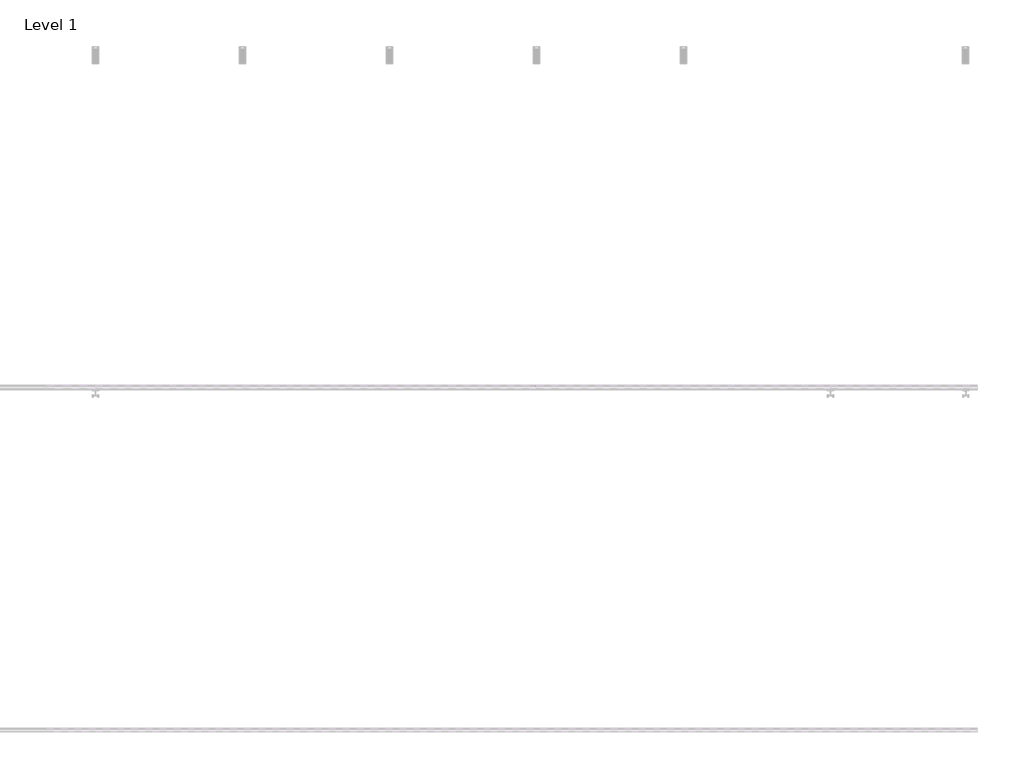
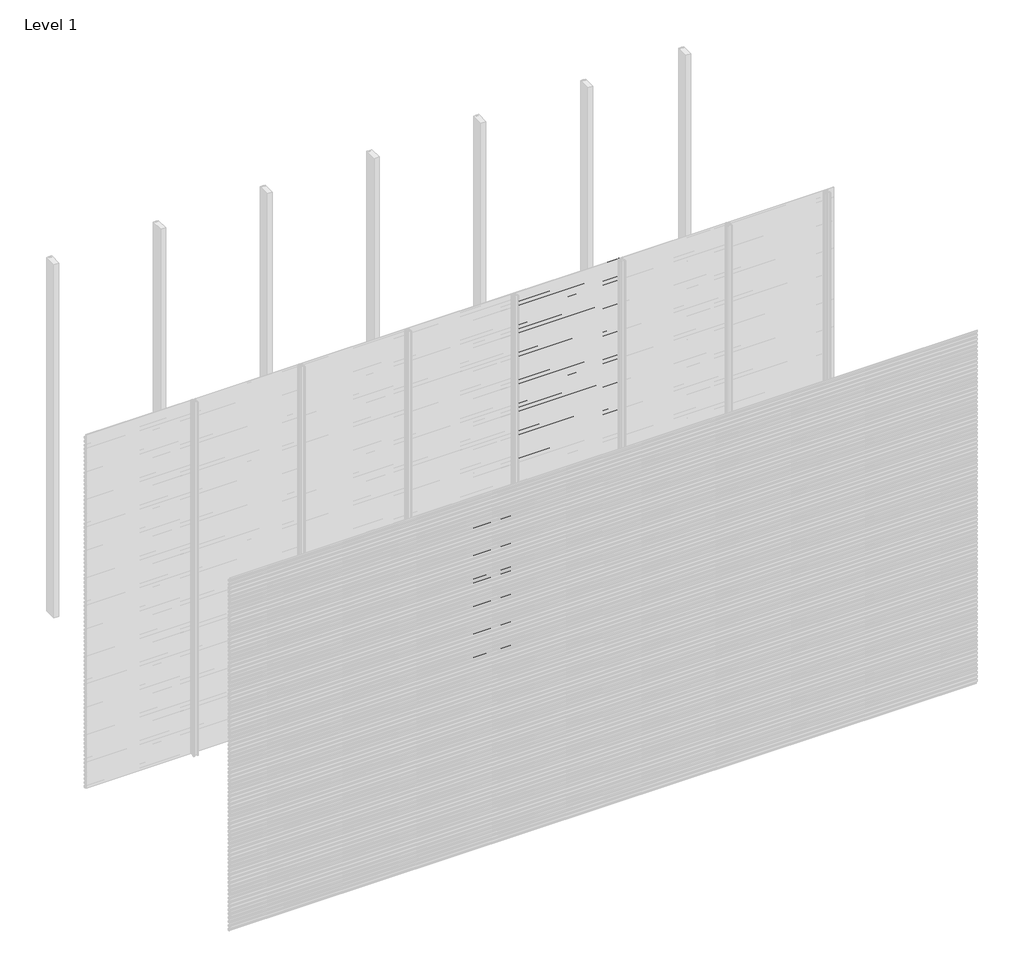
# One storey, part 28 of 96: 77 proxies.
"""IFC4 building model written with IfcOpenShell, lengths in millimetres."""

from ifc_helpers import new_model, si_unit, frame, origin, place, context, project, spatial, polyline, outline, extrude, element, save

model = new_model("IFC4")

# Units and contexts
model_context = context("Model", 3, world=origin())
ifc_project = project(units=[si_unit("LENGTHUNIT", "METRE", prefix="MILLI")], contexts=[model_context])

# Site, building, storey
site = spatial("IfcSite", under=ifc_project)
building = spatial("IfcBuilding", under=site)
storey = spatial("IfcBuildingStorey", under=building, Name="Level 1", Elevation=0.0)

# Proxies
placement = place(None, origin())
element("IfcBuildingElementProxy", 1, Name="Wall Sweeps", at=placement, inside=storey, context=model_context, shape_type="SweptSolid", body=[
    extrude(outline(polyline([(-41977.6, 1106.9655033), (-41977.6, 1092.6779188), (-41982.4114965, 1089.9), (-41982.4114965, 1091.1701706), (-41978.85, 1093.2264016), (-41978.85, 1106.2437382), (-41998.0, 1117.3000799), (-41998.0, 1132.2), (-41996.75, 1132.2), (-41996.75, 1118.0217609), (-41977.6, 1106.9655033)])), frame((2571.4285714, 0.0, 0.0), z_axis=(1.0, 0.0, 0.0), x_axis=(0.0, 1.0, 0.0)), (0.0, 0.0, 1.0), 857.1428571),
])
element("IfcBuildingElementProxy", 2, Name="Wall Sweeps", at=placement, inside=storey, context=model_context, shape_type="SweptSolid", body=[
    extrude(outline(polyline([(-41977.6, 1073.6655033), (-41977.6, 1059.3779188), (-41982.4114965, 1056.6), (-41982.4114965, 1057.8701706), (-41978.85, 1059.9264016), (-41978.85, 1072.9437382), (-41998.0, 1084.0000799), (-41998.0, 1098.9), (-41996.75, 1098.9), (-41996.75, 1084.7217609), (-41977.6, 1073.6655033)])), frame((2571.4285714, 0.0, 0.0), z_axis=(1.0, 0.0, 0.0), x_axis=(0.0, 1.0, 0.0)), (0.0, 0.0, 1.0), 857.1428571),
])
element("IfcBuildingElementProxy", 3, Name="Wall Sweeps", at=placement, inside=storey, context=model_context, shape_type="SweptSolid", body=[
    extrude(outline(polyline([(-41977.6, 1040.3655033), (-41977.6, 1026.0779188), (-41982.4114965, 1023.3), (-41982.4114965, 1024.5701706), (-41978.85, 1026.6264016), (-41978.85, 1039.6437382), (-41998.0, 1050.7000799), (-41998.0, 1065.6), (-41996.75, 1065.6), (-41996.75, 1051.4217609), (-41977.6, 1040.3655033)])), frame((2571.4285714, 0.0, 0.0), z_axis=(1.0, 0.0, 0.0), x_axis=(0.0, 1.0, 0.0)), (0.0, 0.0, 1.0), 857.1428571),
])
element("IfcBuildingElementProxy", 4, Name="Wall Sweeps", at=placement, inside=storey, context=model_context, shape_type="SweptSolid", body=[
    extrude(outline(polyline([(-41977.6, 1007.0655033), (-41977.6, 992.7779188), (-41982.4114965, 990.0), (-41982.4114965, 991.2701706), (-41978.85, 993.3264016), (-41978.85, 1006.3437382), (-41998.0, 1017.4000799), (-41998.0, 1032.3), (-41996.75, 1032.3), (-41996.75, 1018.1217609), (-41977.6, 1007.0655033)])), frame((2571.4285714, 0.0, 0.0), z_axis=(1.0, 0.0, 0.0), x_axis=(0.0, 1.0, 0.0)), (0.0, 0.0, 1.0), 857.1428571),
])
element("IfcBuildingElementProxy", 5, Name="Wall Sweeps", at=placement, inside=storey, context=model_context, shape_type="SweptSolid", body=[
    extrude(outline(polyline([(-41977.6, 973.7655033), (-41977.6, 959.4779188), (-41982.4114965, 956.7), (-41982.4114965, 957.9701706), (-41978.85, 960.0264016), (-41978.85, 973.0437382), (-41998.0, 984.1000799), (-41998.0, 999.0), (-41996.75, 999.0), (-41996.75, 984.8217609), (-41977.6, 973.7655033)])), frame((2571.4285714, 0.0, 0.0), z_axis=(1.0, 0.0, 0.0), x_axis=(0.0, 1.0, 0.0)), (0.0, 0.0, 1.0), 857.1428571),
])
element("IfcBuildingElementProxy", 6, Name="Wall Sweeps", at=placement, inside=storey, context=model_context, shape_type="SweptSolid", body=[
    extrude(outline(polyline([(-41977.6, 940.4655033), (-41977.6, 926.1779188), (-41982.4114965, 923.4), (-41982.4114965, 924.6701706), (-41978.85, 926.7264016), (-41978.85, 939.7437382), (-41998.0, 950.8000799), (-41998.0, 965.7), (-41996.75, 965.7), (-41996.75, 951.5217609), (-41977.6, 940.4655033)])), frame((2571.4285714, 0.0, 0.0), z_axis=(1.0, 0.0, 0.0), x_axis=(0.0, 1.0, 0.0)), (0.0, 0.0, 1.0), 857.1428571),
])
element("IfcBuildingElementProxy", 7, Name="Wall Sweeps", at=placement, inside=storey, context=model_context, shape_type="SweptSolid", body=[
    extrude(outline(polyline([(-41977.6, 907.1655033), (-41977.6, 892.8779188), (-41982.4114965, 890.1), (-41982.4114965, 891.3701706), (-41978.85, 893.4264016), (-41978.85, 906.4437382), (-41998.0, 917.5000799), (-41998.0, 932.4), (-41996.75, 932.4), (-41996.75, 918.2217609), (-41977.6, 907.1655033)])), frame((2571.4285714, 0.0, 0.0), z_axis=(1.0, 0.0, 0.0), x_axis=(0.0, 1.0, 0.0)), (0.0, 0.0, 1.0), 857.1428571),
])
element("IfcBuildingElementProxy", 8, Name="Wall Sweeps", at=placement, inside=storey, context=model_context, shape_type="SweptSolid", body=[
    extrude(outline(polyline([(-41977.6, 873.8655033), (-41977.6, 859.5779188), (-41982.4114965, 856.8), (-41982.4114965, 858.0701706), (-41978.85, 860.1264016), (-41978.85, 873.1437382), (-41998.0, 884.2000799), (-41998.0, 899.1), (-41996.75, 899.1), (-41996.75, 884.9217609), (-41977.6, 873.8655033)])), frame((2571.4285714, 0.0, 0.0), z_axis=(1.0, 0.0, 0.0), x_axis=(0.0, 1.0, 0.0)), (0.0, 0.0, 1.0), 857.1428571),
])
element("IfcBuildingElementProxy", 9, Name="Wall Sweeps", at=placement, inside=storey, context=model_context, shape_type="SweptSolid", body=[
    extrude(outline(polyline([(-41977.6, 840.5655033), (-41977.6, 826.2779188), (-41982.4114965, 823.5), (-41982.4114965, 824.7701706), (-41978.85, 826.8264016), (-41978.85, 839.8437382), (-41998.0, 850.9000799), (-41998.0, 865.8), (-41996.75, 865.8), (-41996.75, 851.6217609), (-41977.6, 840.5655033)])), frame((2571.4285714, 0.0, 0.0), z_axis=(1.0, 0.0, 0.0), x_axis=(0.0, 1.0, 0.0)), (0.0, 0.0, 1.0), 857.1428571),
])
element("IfcBuildingElementProxy", 10, Name="Wall Sweeps", at=placement, inside=storey, context=model_context, shape_type="SweptSolid", body=[
    extrude(outline(polyline([(-41977.6, 807.2655033), (-41977.6, 792.9779188), (-41982.4114965, 790.2), (-41982.4114965, 791.4701706), (-41978.85, 793.5264016), (-41978.85, 806.5437382), (-41998.0, 817.6000799), (-41998.0, 832.5), (-41996.75, 832.5), (-41996.75, 818.3217609), (-41977.6, 807.2655033)])), frame((2571.4285714, 0.0, 0.0), z_axis=(1.0, 0.0, 0.0), x_axis=(0.0, 1.0, 0.0)), (0.0, 0.0, 1.0), 857.1428571),
])
element("IfcBuildingElementProxy", 11, Name="Wall Sweeps", at=placement, inside=storey, context=model_context, shape_type="SweptSolid", body=[
    extrude(outline(polyline([(-41977.6, 773.9655033), (-41977.6, 759.6779188), (-41982.4114965, 756.9), (-41982.4114965, 758.1701706), (-41978.85, 760.2264016), (-41978.85, 773.2437382), (-41998.0, 784.3000799), (-41998.0, 799.2), (-41996.75, 799.2), (-41996.75, 785.0217609), (-41977.6, 773.9655033)])), frame((2571.4285714, 0.0, 0.0), z_axis=(1.0, 0.0, 0.0), x_axis=(0.0, 1.0, 0.0)), (0.0, 0.0, 1.0), 857.1428571),
])
element("IfcBuildingElementProxy", 12, Name="Wall Sweeps", at=placement, inside=storey, context=model_context, shape_type="SweptSolid", body=[
    extrude(outline(polyline([(-41977.6, 740.6655033), (-41977.6, 726.3779188), (-41982.4114965, 723.6), (-41982.4114965, 724.8701706), (-41978.85, 726.9264016), (-41978.85, 739.9437382), (-41998.0, 751.0000799), (-41998.0, 765.9), (-41996.75, 765.9), (-41996.75, 751.7217609), (-41977.6, 740.6655033)])), frame((2571.4285714, 0.0, 0.0), z_axis=(1.0, 0.0, 0.0), x_axis=(0.0, 1.0, 0.0)), (0.0, 0.0, 1.0), 857.1428571),
])
element("IfcBuildingElementProxy", 13, Name="Wall Sweeps", at=placement, inside=storey, context=model_context, shape_type="SweptSolid", body=[
    extrude(outline(polyline([(-41977.6, 707.3655033), (-41977.6, 693.0779188), (-41982.4114965, 690.3), (-41982.4114965, 691.5701706), (-41978.85, 693.6264016), (-41978.85, 706.6437382), (-41998.0, 717.7000799), (-41998.0, 732.6), (-41996.75, 732.6), (-41996.75, 718.4217609), (-41977.6, 707.3655033)])), frame((2571.4285714, 0.0, 0.0), z_axis=(1.0, 0.0, 0.0), x_axis=(0.0, 1.0, 0.0)), (0.0, 0.0, 1.0), 857.1428571),
])
element("IfcBuildingElementProxy", 14, Name="Wall Sweeps", at=placement, inside=storey, context=model_context, shape_type="SweptSolid", body=[
    extrude(outline(polyline([(-41977.6, 674.0655033), (-41977.6, 659.7779188), (-41982.4114965, 657.0), (-41982.4114965, 658.2701706), (-41978.85, 660.3264016), (-41978.85, 673.3437382), (-41998.0, 684.4000799), (-41998.0, 699.3), (-41996.75, 699.3), (-41996.75, 685.1217609), (-41977.6, 674.0655033)])), frame((2571.4285714, 0.0, 0.0), z_axis=(1.0, 0.0, 0.0), x_axis=(0.0, 1.0, 0.0)), (0.0, 0.0, 1.0), 857.1428571),
])
element("IfcBuildingElementProxy", 15, Name="Wall Sweeps", at=placement, inside=storey, context=model_context, shape_type="SweptSolid", body=[
    extrude(outline(polyline([(-41977.6, 640.7655033), (-41977.6, 626.4779188), (-41982.4114965, 623.7), (-41982.4114965, 624.9701706), (-41978.85, 627.0264016), (-41978.85, 640.0437382), (-41998.0, 651.1000799), (-41998.0, 666.0), (-41996.75, 666.0), (-41996.75, 651.8217609), (-41977.6, 640.7655033)])), frame((2571.4285714, 0.0, 0.0), z_axis=(1.0, 0.0, 0.0), x_axis=(0.0, 1.0, 0.0)), (0.0, 0.0, 1.0), 857.1428571),
])
element("IfcBuildingElementProxy", 16, Name="Wall Sweeps", at=placement, inside=storey, context=model_context, shape_type="SweptSolid", body=[
    extrude(outline(polyline([(-41977.6, 607.4655033), (-41977.6, 593.1779188), (-41982.4114965, 590.4), (-41982.4114965, 591.6701706), (-41978.85, 593.7264016), (-41978.85, 606.7437382), (-41998.0, 617.8000799), (-41998.0, 632.7), (-41996.75, 632.7), (-41996.75, 618.5217609), (-41977.6, 607.4655033)])), frame((2571.4285714, 0.0, 0.0), z_axis=(1.0, 0.0, 0.0), x_axis=(0.0, 1.0, 0.0)), (0.0, 0.0, 1.0), 857.1428571),
])
element("IfcBuildingElementProxy", 17, Name="Wall Sweeps", at=placement, inside=storey, context=model_context, shape_type="SweptSolid", body=[
    extrude(outline(polyline([(-41977.6, 574.1655033), (-41977.6, 559.8779188), (-41982.4114965, 557.1), (-41982.4114965, 558.3701706), (-41978.85, 560.4264016), (-41978.85, 573.4437382), (-41998.0, 584.5000799), (-41998.0, 599.4), (-41996.75, 599.4), (-41996.75, 585.2217609), (-41977.6, 574.1655033)])), frame((2571.4285714, 0.0, 0.0), z_axis=(1.0, 0.0, 0.0), x_axis=(0.0, 1.0, 0.0)), (0.0, 0.0, 1.0), 857.1428571),
])
element("IfcBuildingElementProxy", 18, Name="Wall Sweeps", at=placement, inside=storey, context=model_context, shape_type="SweptSolid", body=[
    extrude(outline(polyline([(-41977.6, 540.8655033), (-41977.6, 526.5779188), (-41982.4114965, 523.8), (-41982.4114965, 525.0701706), (-41978.85, 527.1264016), (-41978.85, 540.1437382), (-41998.0, 551.2000799), (-41998.0, 566.1), (-41996.75, 566.1), (-41996.75, 551.9217609), (-41977.6, 540.8655033)])), frame((2571.4285714, 0.0, 0.0), z_axis=(1.0, 0.0, 0.0), x_axis=(0.0, 1.0, 0.0)), (0.0, 0.0, 1.0), 857.1428571),
])
element("IfcBuildingElementProxy", 19, Name="Wall Sweeps", at=placement, inside=storey, context=model_context, shape_type="SweptSolid", body=[
    extrude(outline(polyline([(-41977.6, 507.5655033), (-41977.6, 493.2779188), (-41982.4114965, 490.5), (-41982.4114965, 491.7701706), (-41978.85, 493.8264016), (-41978.85, 506.8437382), (-41998.0, 517.9000799), (-41998.0, 532.8), (-41996.75, 532.8), (-41996.75, 518.6217609), (-41977.6, 507.5655033)])), frame((2571.4285714, 0.0, 0.0), z_axis=(1.0, 0.0, 0.0), x_axis=(0.0, 1.0, 0.0)), (0.0, 0.0, 1.0), 857.1428571),
])
element("IfcBuildingElementProxy", 20, Name="Wall Sweeps", at=placement, inside=storey, context=model_context, shape_type="SweptSolid", body=[
    extrude(outline(polyline([(-41977.6, 474.2655033), (-41977.6, 459.9779188), (-41982.4114965, 457.2), (-41982.4114965, 458.4701706), (-41978.85, 460.5264016), (-41978.85, 473.5437382), (-41998.0, 484.6000799), (-41998.0, 499.5), (-41996.75, 499.5), (-41996.75, 485.3217609), (-41977.6, 474.2655033)])), frame((2571.4285714, 0.0, 0.0), z_axis=(1.0, 0.0, 0.0), x_axis=(0.0, 1.0, 0.0)), (0.0, 0.0, 1.0), 857.1428571),
])
element("IfcBuildingElementProxy", 21, Name="Wall Sweeps", at=placement, inside=storey, context=model_context, shape_type="SweptSolid", body=[
    extrude(outline(polyline([(-41977.6, 440.9655033), (-41977.6, 426.6779188), (-41982.4114965, 423.9), (-41982.4114965, 425.1701706), (-41978.85, 427.2264016), (-41978.85, 440.2437382), (-41998.0, 451.3000799), (-41998.0, 466.2), (-41996.75, 466.2), (-41996.75, 452.0217609), (-41977.6, 440.9655033)])), frame((2571.4285714, 0.0, 0.0), z_axis=(1.0, 0.0, 0.0), x_axis=(0.0, 1.0, 0.0)), (0.0, 0.0, 1.0), 857.1428571),
])
element("IfcBuildingElementProxy", 22, Name="Wall Sweeps", at=placement, inside=storey, context=model_context, shape_type="SweptSolid", body=[
    extrude(outline(polyline([(-41977.6, 407.6655033), (-41977.6, 393.3779188), (-41982.4114965, 390.6), (-41982.4114965, 391.8701706), (-41978.85, 393.9264016), (-41978.85, 406.9437382), (-41998.0, 418.0000799), (-41998.0, 432.9), (-41996.75, 432.9), (-41996.75, 418.7217609), (-41977.6, 407.6655033)])), frame((2571.4285714, 0.0, 0.0), z_axis=(1.0, 0.0, 0.0), x_axis=(0.0, 1.0, 0.0)), (0.0, 0.0, 1.0), 857.1428571),
])
element("IfcBuildingElementProxy", 23, Name="Wall Sweeps", at=placement, inside=storey, context=model_context, shape_type="SweptSolid", body=[
    extrude(outline(polyline([(-41977.6, 374.3655033), (-41977.6, 360.0779188), (-41982.4114965, 357.3), (-41982.4114965, 358.5701706), (-41978.85, 360.6264016), (-41978.85, 373.6437382), (-41998.0, 384.7000799), (-41998.0, 399.6), (-41996.75, 399.6), (-41996.75, 385.4217609), (-41977.6, 374.3655033)])), frame((2571.4285714, 0.0, 0.0), z_axis=(1.0, 0.0, 0.0), x_axis=(0.0, 1.0, 0.0)), (0.0, 0.0, 1.0), 857.1428571),
])
element("IfcBuildingElementProxy", 24, Name="Wall Sweeps", at=placement, inside=storey, context=model_context, shape_type="SweptSolid", body=[
    extrude(outline(polyline([(-41977.6, 341.0655033), (-41977.6, 326.7779188), (-41982.4114965, 324.0), (-41982.4114965, 325.2701706), (-41978.85, 327.3264016), (-41978.85, 340.3437382), (-41998.0, 351.4000799), (-41998.0, 366.3), (-41996.75, 366.3), (-41996.75, 352.1217609), (-41977.6, 341.0655033)])), frame((2571.4285714, 0.0, 0.0), z_axis=(1.0, 0.0, 0.0), x_axis=(0.0, 1.0, 0.0)), (0.0, 0.0, 1.0), 857.1428571),
])
element("IfcBuildingElementProxy", 25, Name="Wall Sweeps", at=placement, inside=storey, context=model_context, shape_type="SweptSolid", body=[
    extrude(outline(polyline([(-41977.6, 307.7655033), (-41977.6, 293.4779188), (-41982.4114965, 290.7), (-41982.4114965, 291.9701706), (-41978.85, 294.0264016), (-41978.85, 307.0437382), (-41998.0, 318.1000799), (-41998.0, 333.0), (-41996.75, 333.0), (-41996.75, 318.8217609), (-41977.6, 307.7655033)])), frame((2571.4285714, 0.0, 0.0), z_axis=(1.0, 0.0, 0.0), x_axis=(0.0, 1.0, 0.0)), (0.0, 0.0, 1.0), 857.1428571),
])
element("IfcBuildingElementProxy", 26, Name="Wall Sweeps", at=placement, inside=storey, context=model_context, shape_type="SweptSolid", body=[
    extrude(outline(polyline([(-41977.6, 274.4655033), (-41977.6, 260.1779188), (-41982.4114965, 257.4), (-41982.4114965, 258.6701706), (-41978.85, 260.7264016), (-41978.85, 273.7437382), (-41998.0, 284.8000799), (-41998.0, 299.7), (-41996.75, 299.7), (-41996.75, 285.5217609), (-41977.6, 274.4655033)])), frame((2571.4285714, 0.0, 0.0), z_axis=(1.0, 0.0, 0.0), x_axis=(0.0, 1.0, 0.0)), (0.0, 0.0, 1.0), 857.1428571),
])
element("IfcBuildingElementProxy", 27, Name="Wall Sweeps", at=placement, inside=storey, context=model_context, shape_type="SweptSolid", body=[
    extrude(outline(polyline([(-41977.6, 241.1655033), (-41977.6, 226.8779188), (-41982.4114965, 224.1), (-41982.4114965, 225.3701706), (-41978.85, 227.4264016), (-41978.85, 240.4437382), (-41998.0, 251.5000799), (-41998.0, 266.4), (-41996.75, 266.4), (-41996.75, 252.2217609), (-41977.6, 241.1655033)])), frame((2571.4285714, 0.0, 0.0), z_axis=(1.0, 0.0, 0.0), x_axis=(0.0, 1.0, 0.0)), (0.0, 0.0, 1.0), 857.1428571),
])
element("IfcBuildingElementProxy", 28, Name="Wall Sweeps", at=placement, inside=storey, context=model_context, shape_type="SweptSolid", body=[
    extrude(outline(polyline([(-41977.6, 207.8655033), (-41977.6, 193.5779188), (-41982.4114965, 190.8), (-41982.4114965, 192.0701706), (-41978.85, 194.1264016), (-41978.85, 207.1437382), (-41998.0, 218.2000799), (-41998.0, 233.1), (-41996.75, 233.1), (-41996.75, 218.9217609), (-41977.6, 207.8655033)])), frame((2571.4285714, 0.0, 0.0), z_axis=(1.0, 0.0, 0.0), x_axis=(0.0, 1.0, 0.0)), (0.0, 0.0, 1.0), 857.1428571),
])
element("IfcBuildingElementProxy", 29, Name="Wall Sweeps", at=placement, inside=storey, context=model_context, shape_type="SweptSolid", body=[
    extrude(outline(polyline([(-41977.6, 174.5655033), (-41977.6, 160.2779188), (-41982.4114965, 157.5), (-41982.4114965, 158.7701706), (-41978.85, 160.8264016), (-41978.85, 173.8437382), (-41998.0, 184.9000799), (-41998.0, 199.8), (-41996.75, 199.8), (-41996.75, 185.6217609), (-41977.6, 174.5655033)])), frame((2571.4285714, 0.0, 0.0), z_axis=(1.0, 0.0, 0.0), x_axis=(0.0, 1.0, 0.0)), (0.0, 0.0, 1.0), 857.1428571),
])
element("IfcBuildingElementProxy", 30, Name="Wall Sweeps", at=placement, inside=storey, context=model_context, shape_type="SweptSolid", body=[
    extrude(outline(polyline([(-41977.6, 141.2655033), (-41977.6, 126.9779188), (-41982.4114965, 124.2), (-41982.4114965, 125.4701706), (-41978.85, 127.5264016), (-41978.85, 140.5437382), (-41998.0, 151.6000799), (-41998.0, 166.5), (-41996.75, 166.5), (-41996.75, 152.3217609), (-41977.6, 141.2655033)])), frame((2571.4285714, 0.0, 0.0), z_axis=(1.0, 0.0, 0.0), x_axis=(0.0, 1.0, 0.0)), (0.0, 0.0, 1.0), 857.1428571),
])
element("IfcBuildingElementProxy", 31, Name="Wall Sweeps", at=placement, inside=storey, context=model_context, shape_type="SweptSolid", body=[
    extrude(outline(polyline([(-41977.6, 107.9655033), (-41977.6, 93.6779188), (-41982.4114965, 90.9), (-41982.4114965, 92.1701706), (-41978.85, 94.2264016), (-41978.85, 107.2437382), (-41998.0, 118.3000799), (-41998.0, 133.2), (-41996.75, 133.2), (-41996.75, 119.0217609), (-41977.6, 107.9655033)])), frame((2571.4285714, 0.0, 0.0), z_axis=(1.0, 0.0, 0.0), x_axis=(0.0, 1.0, 0.0)), (0.0, 0.0, 1.0), 857.1428571),
])
element("IfcBuildingElementProxy", 32, Name="Wall Sweeps", at=placement, inside=storey, context=model_context, shape_type="SweptSolid", body=[
    extrude(outline(polyline([(-41977.6, 74.6655033), (-41977.6, 60.3779188), (-41982.4114965, 57.6), (-41982.4114965, 58.8701706), (-41978.85, 60.9264016), (-41978.85, 73.9437382), (-41998.0, 85.0000799), (-41998.0, 99.9), (-41996.75, 99.9), (-41996.75, 85.7217609), (-41977.6, 74.6655033)])), frame((2571.4285714, 0.0, 0.0), z_axis=(1.0, 0.0, 0.0), x_axis=(0.0, 1.0, 0.0)), (0.0, 0.0, 1.0), 857.1428571),
])
element("IfcBuildingElementProxy", 33, Name="Wall Sweeps", at=placement, inside=storey, context=model_context, shape_type="SweptSolid", body=[
    extrude(outline(polyline([(-41977.6, 41.3655033), (-41977.6, 27.0779188), (-41982.4114965, 24.3), (-41982.4114965, 25.5701706), (-41978.85, 27.6264016), (-41978.85, 40.6437382), (-41998.0, 51.7000799), (-41998.0, 66.6), (-41996.75, 66.6), (-41996.75, 52.4217609), (-41977.6, 41.3655033)])), frame((2571.4285714, 0.0, 0.0), z_axis=(1.0, 0.0, 0.0), x_axis=(0.0, 1.0, 0.0)), (0.0, 0.0, 1.0), 857.1428571),
])
element("IfcBuildingElementProxy", 34, Name="Wall Sweeps", at=placement, inside=storey, context=model_context, shape_type="SweptSolid", body=[
    extrude(outline(polyline([(-41977.6, 8.0655033), (-41977.6, -6.2220812), (-41982.4114965, -9.0), (-41982.4114965, -7.7298294), (-41978.85, -5.6735984), (-41978.85, 7.3437382), (-41998.0, 18.4000799), (-41998.0, 33.3), (-41996.75, 33.3), (-41996.75, 19.1217609), (-41977.6, 8.0655033)])), frame((2571.4285714, 0.0, 0.0), z_axis=(1.0, 0.0, 0.0), x_axis=(0.0, 1.0, 0.0)), (0.0, 0.0, 1.0), 857.1428571),
])
element("IfcBuildingElementProxy", 35, Name="Wall Sweeps", at=placement, inside=storey, context=model_context, shape_type="SweptSolid", body=[
    extrude(outline(polyline([(-41977.6, 2971.7655033), (-41977.6, 2957.4779188), (-41982.4114965, 2954.7), (-41982.4114965, 2955.9701706), (-41978.85, 2958.0264016), (-41978.85, 2971.0437382), (-41998.0, 2982.1000799), (-41998.0, 2997.0), (-41996.75, 2997.0), (-41996.75, 2982.8217609), (-41977.6, 2971.7655033)])), frame((3428.5714286, 0.0, 0.0), z_axis=(1.0, 0.0, 0.0), x_axis=(0.0, 1.0, 0.0)), (0.0, 0.0, 1.0), 857.1428571),
])
element("IfcBuildingElementProxy", 36, Name="Wall Sweeps", at=placement, inside=storey, context=model_context, shape_type="SweptSolid", body=[
    extrude(outline(polyline([(-41977.6, 2938.4655033), (-41977.6, 2924.1779188), (-41982.4114965, 2921.4), (-41982.4114965, 2922.6701706), (-41978.85, 2924.7264016), (-41978.85, 2937.7437382), (-41998.0, 2948.8000799), (-41998.0, 2963.7), (-41996.75, 2963.7), (-41996.75, 2949.5217609), (-41977.6, 2938.4655033)])), frame((3428.5714286, 0.0, 0.0), z_axis=(1.0, 0.0, 0.0), x_axis=(0.0, 1.0, 0.0)), (0.0, 0.0, 1.0), 857.1428571),
])
element("IfcBuildingElementProxy", 37, Name="Wall Sweeps", at=placement, inside=storey, context=model_context, shape_type="SweptSolid", body=[
    extrude(outline(polyline([(-41977.6, 2905.1655033), (-41977.6, 2890.8779188), (-41982.4114965, 2888.1), (-41982.4114965, 2889.3701706), (-41978.85, 2891.4264016), (-41978.85, 2904.4437382), (-41998.0, 2915.5000799), (-41998.0, 2930.4), (-41996.75, 2930.4), (-41996.75, 2916.2217609), (-41977.6, 2905.1655033)])), frame((3428.5714286, 0.0, 0.0), z_axis=(1.0, 0.0, 0.0), x_axis=(0.0, 1.0, 0.0)), (0.0, 0.0, 1.0), 857.1428571),
])
element("IfcBuildingElementProxy", 38, Name="Wall Sweeps", at=placement, inside=storey, context=model_context, shape_type="SweptSolid", body=[
    extrude(outline(polyline([(-41977.6, 2871.8655033), (-41977.6, 2857.5779188), (-41982.4114965, 2854.8), (-41982.4114965, 2856.0701706), (-41978.85, 2858.1264016), (-41978.85, 2871.1437382), (-41998.0, 2882.2000799), (-41998.0, 2897.1), (-41996.75, 2897.1), (-41996.75, 2882.9217609), (-41977.6, 2871.8655033)])), frame((3428.5714286, 0.0, 0.0), z_axis=(1.0, 0.0, 0.0), x_axis=(0.0, 1.0, 0.0)), (0.0, 0.0, 1.0), 857.1428571),
])
element("IfcBuildingElementProxy", 39, Name="Wall Sweeps", at=placement, inside=storey, context=model_context, shape_type="SweptSolid", body=[
    extrude(outline(polyline([(-41977.6, 2838.5655033), (-41977.6, 2824.2779188), (-41982.4114965, 2821.5), (-41982.4114965, 2822.7701706), (-41978.85, 2824.8264016), (-41978.85, 2837.8437382), (-41998.0, 2848.9000799), (-41998.0, 2863.8), (-41996.75, 2863.8), (-41996.75, 2849.6217609), (-41977.6, 2838.5655033)])), frame((3428.5714286, 0.0, 0.0), z_axis=(1.0, 0.0, 0.0), x_axis=(0.0, 1.0, 0.0)), (0.0, 0.0, 1.0), 857.1428571),
])
element("IfcBuildingElementProxy", 40, Name="Wall Sweeps", at=placement, inside=storey, context=model_context, shape_type="SweptSolid", body=[
    extrude(outline(polyline([(-41977.6, 2805.2655033), (-41977.6, 2790.9779188), (-41982.4114965, 2788.2), (-41982.4114965, 2789.4701706), (-41978.85, 2791.5264016), (-41978.85, 2804.5437382), (-41998.0, 2815.6000799), (-41998.0, 2830.5), (-41996.75, 2830.5), (-41996.75, 2816.3217609), (-41977.6, 2805.2655033)])), frame((3428.5714286, 0.0, 0.0), z_axis=(1.0, 0.0, 0.0), x_axis=(0.0, 1.0, 0.0)), (0.0, 0.0, 1.0), 857.1428571),
])
element("IfcBuildingElementProxy", 41, Name="Wall Sweeps", at=placement, inside=storey, context=model_context, shape_type="SweptSolid", body=[
    extrude(outline(polyline([(-41977.6, 2771.9655033), (-41977.6, 2757.6779188), (-41982.4114965, 2754.9), (-41982.4114965, 2756.1701706), (-41978.85, 2758.2264016), (-41978.85, 2771.2437382), (-41998.0, 2782.3000799), (-41998.0, 2797.2), (-41996.75, 2797.2), (-41996.75, 2783.0217609), (-41977.6, 2771.9655033)])), frame((3428.5714286, 0.0, 0.0), z_axis=(1.0, 0.0, 0.0), x_axis=(0.0, 1.0, 0.0)), (0.0, 0.0, 1.0), 857.1428571),
])
element("IfcBuildingElementProxy", 42, Name="Wall Sweeps", at=placement, inside=storey, context=model_context, shape_type="SweptSolid", body=[
    extrude(outline(polyline([(-41977.6, 2738.6655033), (-41977.6, 2724.3779188), (-41982.4114965, 2721.6), (-41982.4114965, 2722.8701706), (-41978.85, 2724.9264016), (-41978.85, 2737.9437382), (-41998.0, 2749.0000799), (-41998.0, 2763.9), (-41996.75, 2763.9), (-41996.75, 2749.7217609), (-41977.6, 2738.6655033)])), frame((3428.5714286, 0.0, 0.0), z_axis=(1.0, 0.0, 0.0), x_axis=(0.0, 1.0, 0.0)), (0.0, 0.0, 1.0), 857.1428571),
])
element("IfcBuildingElementProxy", 43, Name="Wall Sweeps", at=placement, inside=storey, context=model_context, shape_type="SweptSolid", body=[
    extrude(outline(polyline([(-41977.6, 2705.3655033), (-41977.6, 2691.0779188), (-41982.4114965, 2688.3), (-41982.4114965, 2689.5701706), (-41978.85, 2691.6264016), (-41978.85, 2704.6437382), (-41998.0, 2715.7000799), (-41998.0, 2730.6), (-41996.75, 2730.6), (-41996.75, 2716.4217609), (-41977.6, 2705.3655033)])), frame((3428.5714286, 0.0, 0.0), z_axis=(1.0, 0.0, 0.0), x_axis=(0.0, 1.0, 0.0)), (0.0, 0.0, 1.0), 857.1428571),
])
element("IfcBuildingElementProxy", 44, Name="Wall Sweeps", at=placement, inside=storey, context=model_context, shape_type="SweptSolid", body=[
    extrude(outline(polyline([(-41977.6, 2672.0655033), (-41977.6, 2657.7779188), (-41982.4114965, 2655.0), (-41982.4114965, 2656.2701706), (-41978.85, 2658.3264016), (-41978.85, 2671.3437382), (-41998.0, 2682.4000799), (-41998.0, 2697.3), (-41996.75, 2697.3), (-41996.75, 2683.1217609), (-41977.6, 2672.0655033)])), frame((3428.5714286, 0.0, 0.0), z_axis=(1.0, 0.0, 0.0), x_axis=(0.0, 1.0, 0.0)), (0.0, 0.0, 1.0), 857.1428571),
])
element("IfcBuildingElementProxy", 45, Name="Wall Sweeps", at=placement, inside=storey, context=model_context, shape_type="SweptSolid", body=[
    extrude(outline(polyline([(-41977.6, 2638.7655033), (-41977.6, 2624.4779188), (-41982.4114965, 2621.7), (-41982.4114965, 2622.9701706), (-41978.85, 2625.0264016), (-41978.85, 2638.0437382), (-41998.0, 2649.1000799), (-41998.0, 2664.0), (-41996.75, 2664.0), (-41996.75, 2649.8217609), (-41977.6, 2638.7655033)])), frame((3428.5714286, 0.0, 0.0), z_axis=(1.0, 0.0, 0.0), x_axis=(0.0, 1.0, 0.0)), (0.0, 0.0, 1.0), 857.1428571),
])
element("IfcBuildingElementProxy", 46, Name="Wall Sweeps", at=placement, inside=storey, context=model_context, shape_type="SweptSolid", body=[
    extrude(outline(polyline([(-41977.6, 2605.4655033), (-41977.6, 2591.1779188), (-41982.4114965, 2588.4), (-41982.4114965, 2589.6701706), (-41978.85, 2591.7264016), (-41978.85, 2604.7437382), (-41998.0, 2615.8000799), (-41998.0, 2630.7), (-41996.75, 2630.7), (-41996.75, 2616.5217609), (-41977.6, 2605.4655033)])), frame((3428.5714286, 0.0, 0.0), z_axis=(1.0, 0.0, 0.0), x_axis=(0.0, 1.0, 0.0)), (0.0, 0.0, 1.0), 857.1428571),
])
element("IfcBuildingElementProxy", 47, Name="Wall Sweeps", at=placement, inside=storey, context=model_context, shape_type="SweptSolid", body=[
    extrude(outline(polyline([(-41977.6, 2572.1655033), (-41977.6, 2557.8779188), (-41982.4114965, 2555.1), (-41982.4114965, 2556.3701706), (-41978.85, 2558.4264016), (-41978.85, 2571.4437382), (-41998.0, 2582.5000799), (-41998.0, 2597.4), (-41996.75, 2597.4), (-41996.75, 2583.2217609), (-41977.6, 2572.1655033)])), frame((3428.5714286, 0.0, 0.0), z_axis=(1.0, 0.0, 0.0), x_axis=(0.0, 1.0, 0.0)), (0.0, 0.0, 1.0), 857.1428571),
])
element("IfcBuildingElementProxy", 48, Name="Wall Sweeps", at=placement, inside=storey, context=model_context, shape_type="SweptSolid", body=[
    extrude(outline(polyline([(-41977.6, 2538.8655033), (-41977.6, 2524.5779188), (-41982.4114965, 2521.8), (-41982.4114965, 2523.0701706), (-41978.85, 2525.1264016), (-41978.85, 2538.1437382), (-41998.0, 2549.2000799), (-41998.0, 2564.1), (-41996.75, 2564.1), (-41996.75, 2549.9217609), (-41977.6, 2538.8655033)])), frame((3428.5714286, 0.0, 0.0), z_axis=(1.0, 0.0, 0.0), x_axis=(0.0, 1.0, 0.0)), (0.0, 0.0, 1.0), 857.1428571),
])
element("IfcBuildingElementProxy", 49, Name="Wall Sweeps", at=placement, inside=storey, context=model_context, shape_type="SweptSolid", body=[
    extrude(outline(polyline([(-41977.6, 2505.5655033), (-41977.6, 2491.2779188), (-41982.4114965, 2488.5), (-41982.4114965, 2489.7701706), (-41978.85, 2491.8264016), (-41978.85, 2504.8437382), (-41998.0, 2515.9000799), (-41998.0, 2530.8), (-41996.75, 2530.8), (-41996.75, 2516.6217609), (-41977.6, 2505.5655033)])), frame((3428.5714286, 0.0, 0.0), z_axis=(1.0, 0.0, 0.0), x_axis=(0.0, 1.0, 0.0)), (0.0, 0.0, 1.0), 857.1428571),
])
element("IfcBuildingElementProxy", 50, Name="Wall Sweeps", at=placement, inside=storey, context=model_context, shape_type="SweptSolid", body=[
    extrude(outline(polyline([(-41977.6, 2472.2655033), (-41977.6, 2457.9779188), (-41982.4114965, 2455.2), (-41982.4114965, 2456.4701706), (-41978.85, 2458.5264016), (-41978.85, 2471.5437382), (-41998.0, 2482.6000799), (-41998.0, 2497.5), (-41996.75, 2497.5), (-41996.75, 2483.3217609), (-41977.6, 2472.2655033)])), frame((3428.5714286, 0.0, 0.0), z_axis=(1.0, 0.0, 0.0), x_axis=(0.0, 1.0, 0.0)), (0.0, 0.0, 1.0), 857.1428571),
])
element("IfcBuildingElementProxy", 51, Name="Wall Sweeps", at=placement, inside=storey, context=model_context, shape_type="SweptSolid", body=[
    extrude(outline(polyline([(-41977.6, 2438.9655033), (-41977.6, 2424.6779188), (-41982.4114965, 2421.9), (-41982.4114965, 2423.1701706), (-41978.85, 2425.2264016), (-41978.85, 2438.2437382), (-41998.0, 2449.3000799), (-41998.0, 2464.2), (-41996.75, 2464.2), (-41996.75, 2450.0217609), (-41977.6, 2438.9655033)])), frame((3428.5714286, 0.0, 0.0), z_axis=(1.0, 0.0, 0.0), x_axis=(0.0, 1.0, 0.0)), (0.0, 0.0, 1.0), 857.1428571),
])
element("IfcBuildingElementProxy", 52, Name="Wall Sweeps", at=placement, inside=storey, context=model_context, shape_type="SweptSolid", body=[
    extrude(outline(polyline([(-41977.6, 2405.6655033), (-41977.6, 2391.3779188), (-41982.4114965, 2388.6), (-41982.4114965, 2389.8701706), (-41978.85, 2391.9264016), (-41978.85, 2404.9437382), (-41998.0, 2416.0000799), (-41998.0, 2430.9), (-41996.75, 2430.9), (-41996.75, 2416.7217609), (-41977.6, 2405.6655033)])), frame((3428.5714286, 0.0, 0.0), z_axis=(1.0, 0.0, 0.0), x_axis=(0.0, 1.0, 0.0)), (0.0, 0.0, 1.0), 857.1428571),
])
element("IfcBuildingElementProxy", 53, Name="Wall Sweeps", at=placement, inside=storey, context=model_context, shape_type="SweptSolid", body=[
    extrude(outline(polyline([(-41977.6, 2372.3655033), (-41977.6, 2358.0779188), (-41982.4114965, 2355.3), (-41982.4114965, 2356.5701706), (-41978.85, 2358.6264016), (-41978.85, 2371.6437382), (-41998.0, 2382.7000799), (-41998.0, 2397.6), (-41996.75, 2397.6), (-41996.75, 2383.4217609), (-41977.6, 2372.3655033)])), frame((3428.5714286, 0.0, 0.0), z_axis=(1.0, 0.0, 0.0), x_axis=(0.0, 1.0, 0.0)), (0.0, 0.0, 1.0), 857.1428571),
])
element("IfcBuildingElementProxy", 54, Name="Wall Sweeps", at=placement, inside=storey, context=model_context, shape_type="SweptSolid", body=[
    extrude(outline(polyline([(-41977.6, 2339.0655033), (-41977.6, 2324.7779188), (-41982.4114965, 2322.0), (-41982.4114965, 2323.2701706), (-41978.85, 2325.3264016), (-41978.85, 2338.3437382), (-41998.0, 2349.4000799), (-41998.0, 2364.3), (-41996.75, 2364.3), (-41996.75, 2350.1217609), (-41977.6, 2339.0655033)])), frame((3428.5714286, 0.0, 0.0), z_axis=(1.0, 0.0, 0.0), x_axis=(0.0, 1.0, 0.0)), (0.0, 0.0, 1.0), 857.1428571),
])
element("IfcBuildingElementProxy", 55, Name="Wall Sweeps", at=placement, inside=storey, context=model_context, shape_type="SweptSolid", body=[
    extrude(outline(polyline([(-41977.6, 2305.7655033), (-41977.6, 2291.4779188), (-41982.4114965, 2288.7), (-41982.4114965, 2289.9701706), (-41978.85, 2292.0264016), (-41978.85, 2305.0437382), (-41998.0, 2316.1000799), (-41998.0, 2331.0), (-41996.75, 2331.0), (-41996.75, 2316.8217609), (-41977.6, 2305.7655033)])), frame((3428.5714286, 0.0, 0.0), z_axis=(1.0, 0.0, 0.0), x_axis=(0.0, 1.0, 0.0)), (0.0, 0.0, 1.0), 857.1428571),
])
element("IfcBuildingElementProxy", 56, Name="Wall Sweeps", at=placement, inside=storey, context=model_context, shape_type="SweptSolid", body=[
    extrude(outline(polyline([(-41977.6, 2272.4655033), (-41977.6, 2258.1779188), (-41982.4114965, 2255.4), (-41982.4114965, 2256.6701706), (-41978.85, 2258.7264016), (-41978.85, 2271.7437382), (-41998.0, 2282.8000799), (-41998.0, 2297.7), (-41996.75, 2297.7), (-41996.75, 2283.5217609), (-41977.6, 2272.4655033)])), frame((3428.5714286, 0.0, 0.0), z_axis=(1.0, 0.0, 0.0), x_axis=(0.0, 1.0, 0.0)), (0.0, 0.0, 1.0), 857.1428571),
])
element("IfcBuildingElementProxy", 57, Name="Wall Sweeps", at=placement, inside=storey, context=model_context, shape_type="SweptSolid", body=[
    extrude(outline(polyline([(-41977.6, 2239.1655033), (-41977.6, 2224.8779188), (-41982.4114965, 2222.1), (-41982.4114965, 2223.3701706), (-41978.85, 2225.4264016), (-41978.85, 2238.4437382), (-41998.0, 2249.5000799), (-41998.0, 2264.4), (-41996.75, 2264.4), (-41996.75, 2250.2217609), (-41977.6, 2239.1655033)])), frame((3428.5714286, 0.0, 0.0), z_axis=(1.0, 0.0, 0.0), x_axis=(0.0, 1.0, 0.0)), (0.0, 0.0, 1.0), 857.1428571),
])
element("IfcBuildingElementProxy", 58, Name="Wall Sweeps", at=placement, inside=storey, context=model_context, shape_type="SweptSolid", body=[
    extrude(outline(polyline([(-41977.6, 2205.8655033), (-41977.6, 2191.5779188), (-41982.4114965, 2188.8), (-41982.4114965, 2190.0701706), (-41978.85, 2192.1264016), (-41978.85, 2205.1437382), (-41998.0, 2216.2000799), (-41998.0, 2231.1), (-41996.75, 2231.1), (-41996.75, 2216.9217609), (-41977.6, 2205.8655033)])), frame((3428.5714286, 0.0, 0.0), z_axis=(1.0, 0.0, 0.0), x_axis=(0.0, 1.0, 0.0)), (0.0, 0.0, 1.0), 857.1428571),
])
element("IfcBuildingElementProxy", 59, Name="Wall Sweeps", at=placement, inside=storey, context=model_context, shape_type="SweptSolid", body=[
    extrude(outline(polyline([(-41977.6, 2172.5655033), (-41977.6, 2158.2779188), (-41982.4114965, 2155.5), (-41982.4114965, 2156.7701706), (-41978.85, 2158.8264016), (-41978.85, 2171.8437382), (-41998.0, 2182.9000799), (-41998.0, 2197.8), (-41996.75, 2197.8), (-41996.75, 2183.6217609), (-41977.6, 2172.5655033)])), frame((3428.5714286, 0.0, 0.0), z_axis=(1.0, 0.0, 0.0), x_axis=(0.0, 1.0, 0.0)), (0.0, 0.0, 1.0), 857.1428571),
])
element("IfcBuildingElementProxy", 60, Name="Wall Sweeps", at=placement, inside=storey, context=model_context, shape_type="SweptSolid", body=[
    extrude(outline(polyline([(-41977.6, 2139.2655033), (-41977.6, 2124.9779188), (-41982.4114965, 2122.2), (-41982.4114965, 2123.4701706), (-41978.85, 2125.5264016), (-41978.85, 2138.5437382), (-41998.0, 2149.6000799), (-41998.0, 2164.5), (-41996.75, 2164.5), (-41996.75, 2150.3217609), (-41977.6, 2139.2655033)])), frame((3428.5714286, 0.0, 0.0), z_axis=(1.0, 0.0, 0.0), x_axis=(0.0, 1.0, 0.0)), (0.0, 0.0, 1.0), 857.1428571),
])
element("IfcBuildingElementProxy", 61, Name="Wall Sweeps", at=placement, inside=storey, context=model_context, shape_type="SweptSolid", body=[
    extrude(outline(polyline([(-41977.6, 2105.9655033), (-41977.6, 2091.6779188), (-41982.4114965, 2088.9), (-41982.4114965, 2090.1701706), (-41978.85, 2092.2264016), (-41978.85, 2105.2437382), (-41998.0, 2116.3000799), (-41998.0, 2131.2), (-41996.75, 2131.2), (-41996.75, 2117.0217609), (-41977.6, 2105.9655033)])), frame((3428.5714286, 0.0, 0.0), z_axis=(1.0, 0.0, 0.0), x_axis=(0.0, 1.0, 0.0)), (0.0, 0.0, 1.0), 857.1428571),
])
element("IfcBuildingElementProxy", 62, Name="Wall Sweeps", at=placement, inside=storey, context=model_context, shape_type="SweptSolid", body=[
    extrude(outline(polyline([(-41977.6, 2072.6655033), (-41977.6, 2058.3779188), (-41982.4114965, 2055.6), (-41982.4114965, 2056.8701706), (-41978.85, 2058.9264016), (-41978.85, 2071.9437382), (-41998.0, 2083.0000799), (-41998.0, 2097.9), (-41996.75, 2097.9), (-41996.75, 2083.7217609), (-41977.6, 2072.6655033)])), frame((3428.5714286, 0.0, 0.0), z_axis=(1.0, 0.0, 0.0), x_axis=(0.0, 1.0, 0.0)), (0.0, 0.0, 1.0), 857.1428571),
])
element("IfcBuildingElementProxy", 63, Name="Wall Sweeps", at=placement, inside=storey, context=model_context, shape_type="SweptSolid", body=[
    extrude(outline(polyline([(-41977.6, 2039.3655033), (-41977.6, 2025.0779188), (-41982.4114965, 2022.3), (-41982.4114965, 2023.5701706), (-41978.85, 2025.6264016), (-41978.85, 2038.6437382), (-41998.0, 2049.7000799), (-41998.0, 2064.6), (-41996.75, 2064.6), (-41996.75, 2050.4217609), (-41977.6, 2039.3655033)])), frame((3428.5714286, 0.0, 0.0), z_axis=(1.0, 0.0, 0.0), x_axis=(0.0, 1.0, 0.0)), (0.0, 0.0, 1.0), 857.1428571),
])
element("IfcBuildingElementProxy", 64, Name="Wall Sweeps", at=placement, inside=storey, context=model_context, shape_type="SweptSolid", body=[
    extrude(outline(polyline([(-41977.6, 2006.0655033), (-41977.6, 1991.7779188), (-41982.4114965, 1989.0), (-41982.4114965, 1990.2701706), (-41978.85, 1992.3264016), (-41978.85, 2005.3437382), (-41998.0, 2016.4000799), (-41998.0, 2031.3), (-41996.75, 2031.3), (-41996.75, 2017.1217609), (-41977.6, 2006.0655033)])), frame((3428.5714286, 0.0, 0.0), z_axis=(1.0, 0.0, 0.0), x_axis=(0.0, 1.0, 0.0)), (0.0, 0.0, 1.0), 857.1428571),
])
element("IfcBuildingElementProxy", 65, Name="Wall Sweeps", at=placement, inside=storey, context=model_context, shape_type="SweptSolid", body=[
    extrude(outline(polyline([(-41977.6, 1972.7655033), (-41977.6, 1958.4779188), (-41982.4114965, 1955.7), (-41982.4114965, 1956.9701706), (-41978.85, 1959.0264016), (-41978.85, 1972.0437382), (-41998.0, 1983.1000799), (-41998.0, 1998.0), (-41996.75, 1998.0), (-41996.75, 1983.8217609), (-41977.6, 1972.7655033)])), frame((3428.5714286, 0.0, 0.0), z_axis=(1.0, 0.0, 0.0), x_axis=(0.0, 1.0, 0.0)), (0.0, 0.0, 1.0), 857.1428571),
])
element("IfcBuildingElementProxy", 66, Name="Wall Sweeps", at=placement, inside=storey, context=model_context, shape_type="SweptSolid", body=[
    extrude(outline(polyline([(-41977.6, 1939.4655033), (-41977.6, 1925.1779188), (-41982.4114965, 1922.4), (-41982.4114965, 1923.6701706), (-41978.85, 1925.7264016), (-41978.85, 1938.7437382), (-41998.0, 1949.8000799), (-41998.0, 1964.7), (-41996.75, 1964.7), (-41996.75, 1950.5217609), (-41977.6, 1939.4655033)])), frame((3428.5714286, 0.0, 0.0), z_axis=(1.0, 0.0, 0.0), x_axis=(0.0, 1.0, 0.0)), (0.0, 0.0, 1.0), 857.1428571),
])
element("IfcBuildingElementProxy", 67, Name="Wall Sweeps", at=placement, inside=storey, context=model_context, shape_type="SweptSolid", body=[
    extrude(outline(polyline([(-41977.6, 1906.1655033), (-41977.6, 1891.8779188), (-41982.4114965, 1889.1), (-41982.4114965, 1890.3701706), (-41978.85, 1892.4264016), (-41978.85, 1905.4437382), (-41998.0, 1916.5000799), (-41998.0, 1931.4), (-41996.75, 1931.4), (-41996.75, 1917.2217609), (-41977.6, 1906.1655033)])), frame((3428.5714286, 0.0, 0.0), z_axis=(1.0, 0.0, 0.0), x_axis=(0.0, 1.0, 0.0)), (0.0, 0.0, 1.0), 857.1428571),
])
element("IfcBuildingElementProxy", 68, Name="Wall Sweeps", at=placement, inside=storey, context=model_context, shape_type="SweptSolid", body=[
    extrude(outline(polyline([(-41977.6, 1872.8655033), (-41977.6, 1858.5779188), (-41982.4114965, 1855.8), (-41982.4114965, 1857.0701706), (-41978.85, 1859.1264016), (-41978.85, 1872.1437382), (-41998.0, 1883.2000799), (-41998.0, 1898.1), (-41996.75, 1898.1), (-41996.75, 1883.9217609), (-41977.6, 1872.8655033)])), frame((3428.5714286, 0.0, 0.0), z_axis=(1.0, 0.0, 0.0), x_axis=(0.0, 1.0, 0.0)), (0.0, 0.0, 1.0), 857.1428571),
])
element("IfcBuildingElementProxy", 69, Name="Wall Sweeps", at=placement, inside=storey, context=model_context, shape_type="SweptSolid", body=[
    extrude(outline(polyline([(-41977.6, 1839.5655033), (-41977.6, 1825.2779188), (-41982.4114965, 1822.5), (-41982.4114965, 1823.7701706), (-41978.85, 1825.8264016), (-41978.85, 1838.8437382), (-41998.0, 1849.9000799), (-41998.0, 1864.8), (-41996.75, 1864.8), (-41996.75, 1850.6217609), (-41977.6, 1839.5655033)])), frame((3428.5714286, 0.0, 0.0), z_axis=(1.0, 0.0, 0.0), x_axis=(0.0, 1.0, 0.0)), (0.0, 0.0, 1.0), 857.1428571),
])
element("IfcBuildingElementProxy", 70, Name="Wall Sweeps", at=placement, inside=storey, context=model_context, shape_type="SweptSolid", body=[
    extrude(outline(polyline([(-41977.6, 1806.2655033), (-41977.6, 1791.9779188), (-41982.4114965, 1789.2), (-41982.4114965, 1790.4701706), (-41978.85, 1792.5264016), (-41978.85, 1805.5437382), (-41998.0, 1816.6000799), (-41998.0, 1831.5), (-41996.75, 1831.5), (-41996.75, 1817.3217609), (-41977.6, 1806.2655033)])), frame((3428.5714286, 0.0, 0.0), z_axis=(1.0, 0.0, 0.0), x_axis=(0.0, 1.0, 0.0)), (0.0, 0.0, 1.0), 857.1428571),
])
element("IfcBuildingElementProxy", 71, Name="Wall Sweeps", at=placement, inside=storey, context=model_context, shape_type="SweptSolid", body=[
    extrude(outline(polyline([(-41977.6, 1772.9655033), (-41977.6, 1758.6779188), (-41982.4114965, 1755.9), (-41982.4114965, 1757.1701706), (-41978.85, 1759.2264016), (-41978.85, 1772.2437382), (-41998.0, 1783.3000799), (-41998.0, 1798.2), (-41996.75, 1798.2), (-41996.75, 1784.0217609), (-41977.6, 1772.9655033)])), frame((3428.5714286, 0.0, 0.0), z_axis=(1.0, 0.0, 0.0), x_axis=(0.0, 1.0, 0.0)), (0.0, 0.0, 1.0), 857.1428571),
])
element("IfcBuildingElementProxy", 72, Name="Wall Sweeps", at=placement, inside=storey, context=model_context, shape_type="SweptSolid", body=[
    extrude(outline(polyline([(-41977.6, 1739.6655033), (-41977.6, 1725.3779188), (-41982.4114965, 1722.6), (-41982.4114965, 1723.8701706), (-41978.85, 1725.9264016), (-41978.85, 1738.9437382), (-41998.0, 1750.0000799), (-41998.0, 1764.9), (-41996.75, 1764.9), (-41996.75, 1750.7217609), (-41977.6, 1739.6655033)])), frame((3428.5714286, 0.0, 0.0), z_axis=(1.0, 0.0, 0.0), x_axis=(0.0, 1.0, 0.0)), (0.0, 0.0, 1.0), 857.1428571),
])
element("IfcBuildingElementProxy", 73, Name="Wall Sweeps", at=placement, inside=storey, context=model_context, shape_type="SweptSolid", body=[
    extrude(outline(polyline([(-41977.6, 1706.3655033), (-41977.6, 1692.0779188), (-41982.4114965, 1689.3), (-41982.4114965, 1690.5701706), (-41978.85, 1692.6264016), (-41978.85, 1705.6437382), (-41998.0, 1716.7000799), (-41998.0, 1731.6), (-41996.75, 1731.6), (-41996.75, 1717.4217609), (-41977.6, 1706.3655033)])), frame((3428.5714286, 0.0, 0.0), z_axis=(1.0, 0.0, 0.0), x_axis=(0.0, 1.0, 0.0)), (0.0, 0.0, 1.0), 857.1428571),
])
element("IfcBuildingElementProxy", 74, Name="Wall Sweeps", at=placement, inside=storey, context=model_context, shape_type="SweptSolid", body=[
    extrude(outline(polyline([(-41977.6, 1673.0655033), (-41977.6, 1658.7779188), (-41982.4114965, 1656.0), (-41982.4114965, 1657.2701706), (-41978.85, 1659.3264016), (-41978.85, 1672.3437382), (-41998.0, 1683.4000799), (-41998.0, 1698.3), (-41996.75, 1698.3), (-41996.75, 1684.1217609), (-41977.6, 1673.0655033)])), frame((3428.5714286, 0.0, 0.0), z_axis=(1.0, 0.0, 0.0), x_axis=(0.0, 1.0, 0.0)), (0.0, 0.0, 1.0), 857.1428571),
])
element("IfcBuildingElementProxy", 75, Name="Wall Sweeps", at=placement, inside=storey, context=model_context, shape_type="SweptSolid", body=[
    extrude(outline(polyline([(-41977.6, 1639.7655033), (-41977.6, 1625.4779188), (-41982.4114965, 1622.7), (-41982.4114965, 1623.9701706), (-41978.85, 1626.0264016), (-41978.85, 1639.0437382), (-41998.0, 1650.1000799), (-41998.0, 1665.0), (-41996.75, 1665.0), (-41996.75, 1650.8217609), (-41977.6, 1639.7655033)])), frame((3428.5714286, 0.0, 0.0), z_axis=(1.0, 0.0, 0.0), x_axis=(0.0, 1.0, 0.0)), (0.0, 0.0, 1.0), 857.1428571),
])
element("IfcBuildingElementProxy", 76, Name="Wall Sweeps", at=placement, inside=storey, context=model_context, shape_type="SweptSolid", body=[
    extrude(outline(polyline([(-41977.6, 1606.4655033), (-41977.6, 1592.1779188), (-41982.4114965, 1589.4), (-41982.4114965, 1590.6701706), (-41978.85, 1592.7264016), (-41978.85, 1605.7437382), (-41998.0, 1616.8000799), (-41998.0, 1631.7), (-41996.75, 1631.7), (-41996.75, 1617.5217609), (-41977.6, 1606.4655033)])), frame((3428.5714286, 0.0, 0.0), z_axis=(1.0, 0.0, 0.0), x_axis=(0.0, 1.0, 0.0)), (0.0, 0.0, 1.0), 857.1428571),
])
element("IfcBuildingElementProxy", 77, Name="Wall Sweeps", at=placement, inside=storey, context=model_context, shape_type="SweptSolid", body=[
    extrude(outline(polyline([(-41977.6, 1573.1655033), (-41977.6, 1558.8779188), (-41982.4114965, 1556.1), (-41982.4114965, 1557.3701706), (-41978.85, 1559.4264016), (-41978.85, 1572.4437382), (-41998.0, 1583.5000799), (-41998.0, 1598.4), (-41996.75, 1598.4), (-41996.75, 1584.2217609), (-41977.6, 1573.1655033)])), frame((3428.5714286, 0.0, 0.0), z_axis=(1.0, 0.0, 0.0), x_axis=(0.0, 1.0, 0.0)), (0.0, 0.0, 1.0), 857.1428571),
])

save(model, "model.ifc")
